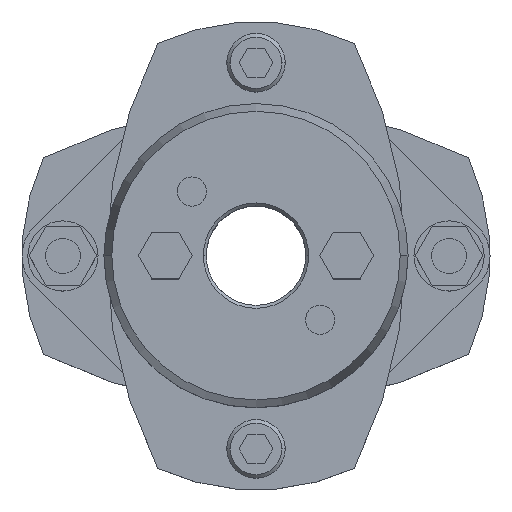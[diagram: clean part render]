
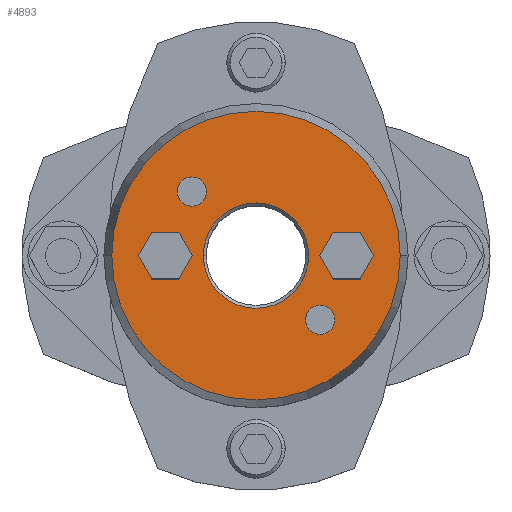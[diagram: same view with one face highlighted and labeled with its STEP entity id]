
A CAD part, top view. The second image highlights one B-rep face of the part: STEP entity #4893.
In plain terms, the highlighted planar face has unit normal (0, 0, 1).
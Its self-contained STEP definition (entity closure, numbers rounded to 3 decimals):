
#857=CARTESIAN_POINT('',(-9.,0.,35.875));
#858=VERTEX_POINT('',#857);
#874=CARTESIAN_POINT('',(9.,0.,35.875));
#875=VERTEX_POINT('',#874);
#882=CARTESIAN_POINT('',(0.,0.,35.875));
#883=DIRECTION('',(0.0,0.0,1.0));
#884=DIRECTION('',(-1.0,0.0,0.0));
#885=AXIS2_PLACEMENT_3D('',#882,#883,#884);
#886=CIRCLE('',#885,9.0);
#887=EDGE_CURVE('',#875,#858,#886,.T.);
#1045=CARTESIAN_POINT('',(24.66,0.,35.875));
#1046=VERTEX_POINT('',#1045);
#1053=CARTESIAN_POINT('',(-24.66,0.,35.875));
#1054=VERTEX_POINT('',#1053);
#1055=CARTESIAN_POINT('',(0.,0.,35.875));
#1056=DIRECTION('',(0.0,0.0,-1.0));
#1057=DIRECTION('',(1.0,0.0,0.0));
#1058=AXIS2_PLACEMENT_3D('',#1055,#1056,#1057);
#1059=CIRCLE('',#1058,24.66);
#1060=EDGE_CURVE('',#1046,#1054,#1059,.T.);
#1155=CARTESIAN_POINT('',(-13.46,10.96,35.875));
#1156=VERTEX_POINT('',#1155);
#1172=CARTESIAN_POINT('',(-8.46,10.96,35.875));
#1173=VERTEX_POINT('',#1172);
#1180=CARTESIAN_POINT('',(-10.96,10.96,35.875));
#1181=DIRECTION('',(0.0,0.0,-1.0));
#1182=DIRECTION('',(-1.0,0.0,0.0));
#1183=AXIS2_PLACEMENT_3D('',#1180,#1181,#1182);
#1184=CIRCLE('',#1183,2.5);
#1185=EDGE_CURVE('',#1156,#1173,#1184,.T.);
#1197=CARTESIAN_POINT('',(8.46,-10.96,35.875));
#1198=VERTEX_POINT('',#1197);
#1214=CARTESIAN_POINT('',(13.46,-10.96,35.875));
#1215=VERTEX_POINT('',#1214);
#1222=CARTESIAN_POINT('',(10.96,-10.96,35.875));
#1223=DIRECTION('',(0.0,0.0,-1.0));
#1224=DIRECTION('',(-1.0,0.0,0.0));
#1225=AXIS2_PLACEMENT_3D('',#1222,#1223,#1224);
#1226=CIRCLE('',#1225,2.5);
#1227=EDGE_CURVE('',#1198,#1215,#1226,.T.);
#4137=CARTESIAN_POINT('',(10.881,0.,35.875));
#4138=VERTEX_POINT('',#4137);
#4145=CARTESIAN_POINT('',(13.191,-4.,35.875));
#4146=VERTEX_POINT('',#4145);
#4147=CARTESIAN_POINT('',(13.191,-4.,35.875));
#4148=DIRECTION('',(-0.5,0.866,0.0));
#4149=VECTOR('',#4148,4.619);
#4150=LINE('',#4147,#4149);
#4151=EDGE_CURVE('',#4146,#4138,#4150,.T.);
#4175=CARTESIAN_POINT('',(13.191,4.,35.875));
#4176=VERTEX_POINT('',#4175);
#4183=CARTESIAN_POINT('',(10.881,0.,35.875));
#4184=DIRECTION('',(0.5,0.866,0.0));
#4185=VECTOR('',#4184,4.619);
#4186=LINE('',#4183,#4185);
#4187=EDGE_CURVE('',#4138,#4176,#4186,.T.);
#4206=CARTESIAN_POINT('',(17.809,4.,35.875));
#4207=VERTEX_POINT('',#4206);
#4214=CARTESIAN_POINT('',(13.191,4.,35.875));
#4215=DIRECTION('',(1.0,0.0,0.0));
#4216=VECTOR('',#4215,4.619);
#4217=LINE('',#4214,#4216);
#4218=EDGE_CURVE('',#4176,#4207,#4217,.T.);
#4237=CARTESIAN_POINT('',(20.119,0.,35.875));
#4238=VERTEX_POINT('',#4237);
#4245=CARTESIAN_POINT('',(17.809,4.,35.875));
#4246=DIRECTION('',(0.5,-0.866,0.0));
#4247=VECTOR('',#4246,4.619);
#4248=LINE('',#4245,#4247);
#4249=EDGE_CURVE('',#4207,#4238,#4248,.T.);
#4268=CARTESIAN_POINT('',(17.809,-4.,35.875));
#4269=VERTEX_POINT('',#4268);
#4276=CARTESIAN_POINT('',(20.119,0.,35.875));
#4277=DIRECTION('',(-0.5,-0.866,0.0));
#4278=VECTOR('',#4277,4.619);
#4279=LINE('',#4276,#4278);
#4280=EDGE_CURVE('',#4238,#4269,#4279,.T.);
#4298=CARTESIAN_POINT('',(17.809,-4.,35.875));
#4299=DIRECTION('',(-1.0,0.0,0.0));
#4300=VECTOR('',#4299,4.619);
#4301=LINE('',#4298,#4300);
#4302=EDGE_CURVE('',#4269,#4146,#4301,.T.);
#4337=CARTESIAN_POINT('',(-20.119,0.,35.875));
#4338=VERTEX_POINT('',#4337);
#4345=CARTESIAN_POINT('',(-17.809,-4.,35.875));
#4346=VERTEX_POINT('',#4345);
#4347=CARTESIAN_POINT('',(-17.809,-4.,35.875));
#4348=DIRECTION('',(-0.5,0.866,0.0));
#4349=VECTOR('',#4348,4.619);
#4350=LINE('',#4347,#4349);
#4351=EDGE_CURVE('',#4346,#4338,#4350,.T.);
#4375=CARTESIAN_POINT('',(-17.809,4.,35.875));
#4376=VERTEX_POINT('',#4375);
#4383=CARTESIAN_POINT('',(-20.119,0.,35.875));
#4384=DIRECTION('',(0.5,0.866,0.0));
#4385=VECTOR('',#4384,4.619);
#4386=LINE('',#4383,#4385);
#4387=EDGE_CURVE('',#4338,#4376,#4386,.T.);
#4406=CARTESIAN_POINT('',(-13.191,4.,35.875));
#4407=VERTEX_POINT('',#4406);
#4414=CARTESIAN_POINT('',(-17.809,4.,35.875));
#4415=DIRECTION('',(1.0,0.0,0.0));
#4416=VECTOR('',#4415,4.619);
#4417=LINE('',#4414,#4416);
#4418=EDGE_CURVE('',#4376,#4407,#4417,.T.);
#4437=CARTESIAN_POINT('',(-10.881,0.,35.875));
#4438=VERTEX_POINT('',#4437);
#4445=CARTESIAN_POINT('',(-13.191,4.,35.875));
#4446=DIRECTION('',(0.5,-0.866,0.0));
#4447=VECTOR('',#4446,4.619);
#4448=LINE('',#4445,#4447);
#4449=EDGE_CURVE('',#4407,#4438,#4448,.T.);
#4468=CARTESIAN_POINT('',(-13.191,-4.,35.875));
#4469=VERTEX_POINT('',#4468);
#4476=CARTESIAN_POINT('',(-10.881,0.,35.875));
#4477=DIRECTION('',(-0.5,-0.866,0.0));
#4478=VECTOR('',#4477,4.619);
#4479=LINE('',#4476,#4478);
#4480=EDGE_CURVE('',#4438,#4469,#4479,.T.);
#4498=CARTESIAN_POINT('',(-13.191,-4.,35.875));
#4499=DIRECTION('',(-1.0,0.0,0.0));
#4500=VECTOR('',#4499,4.619);
#4501=LINE('',#4498,#4500);
#4502=EDGE_CURVE('',#4469,#4346,#4501,.T.);
#4528=CARTESIAN_POINT('',(10.96,-10.96,35.875));
#4529=DIRECTION('',(0.0,0.0,-1.0));
#4530=DIRECTION('',(-1.0,0.0,0.0));
#4531=AXIS2_PLACEMENT_3D('',#4528,#4529,#4530);
#4532=CIRCLE('',#4531,2.5);
#4533=EDGE_CURVE('',#1215,#1198,#4532,.T.);
#4562=CARTESIAN_POINT('',(-10.96,10.96,35.875));
#4563=DIRECTION('',(0.0,0.0,-1.0));
#4564=DIRECTION('',(-1.0,0.0,0.0));
#4565=AXIS2_PLACEMENT_3D('',#4562,#4563,#4564);
#4566=CIRCLE('',#4565,2.5);
#4567=EDGE_CURVE('',#1173,#1156,#4566,.T.);
#4840=CARTESIAN_POINT('',(0.,0.,35.875));
#4841=DIRECTION('',(0.0,0.0,-1.0));
#4842=DIRECTION('',(1.0,0.0,0.0));
#4843=AXIS2_PLACEMENT_3D('',#4840,#4841,#4842);
#4844=CIRCLE('',#4843,24.66);
#4845=EDGE_CURVE('',#1054,#1046,#4844,.T.);
#4850=CARTESIAN_POINT('',(-2.364,0.,35.875));
#4851=DIRECTION('',(0.0,0.0,1.0));
#4852=DIRECTION('',(-1.0,0.0,0.0));
#4853=AXIS2_PLACEMENT_3D('',#4850,#4851,#4852);
#4854=PLANE('',#4853);
#4855=ORIENTED_EDGE('',*,*,#4845,.F.);
#4856=ORIENTED_EDGE('',*,*,#1060,.F.);
#4857=EDGE_LOOP('',(#4855,#4856));
#4858=FACE_OUTER_BOUND('',#4857,.T.);
#4859=ORIENTED_EDGE('',*,*,#4151,.T.);
#4860=ORIENTED_EDGE('',*,*,#4187,.T.);
#4861=ORIENTED_EDGE('',*,*,#4218,.T.);
#4862=ORIENTED_EDGE('',*,*,#4249,.T.);
#4863=ORIENTED_EDGE('',*,*,#4280,.T.);
#4864=ORIENTED_EDGE('',*,*,#4302,.T.);
#4865=EDGE_LOOP('',(#4859,#4860,#4861,#4862,#4863,#4864));
#4866=FACE_BOUND('',#4865,.T.);
#4867=ORIENTED_EDGE('',*,*,#4351,.T.);
#4868=ORIENTED_EDGE('',*,*,#4387,.T.);
#4869=ORIENTED_EDGE('',*,*,#4418,.T.);
#4870=ORIENTED_EDGE('',*,*,#4449,.T.);
#4871=ORIENTED_EDGE('',*,*,#4480,.T.);
#4872=ORIENTED_EDGE('',*,*,#4502,.T.);
#4873=EDGE_LOOP('',(#4867,#4868,#4869,#4870,#4871,#4872));
#4874=FACE_BOUND('',#4873,.T.);
#4875=ORIENTED_EDGE('',*,*,#1227,.T.);
#4876=ORIENTED_EDGE('',*,*,#4533,.T.);
#4877=EDGE_LOOP('',(#4875,#4876));
#4878=FACE_BOUND('',#4877,.T.);
#4879=ORIENTED_EDGE('',*,*,#1185,.T.);
#4880=ORIENTED_EDGE('',*,*,#4567,.T.);
#4881=EDGE_LOOP('',(#4879,#4880));
#4882=FACE_BOUND('',#4881,.T.);
#4883=ORIENTED_EDGE('',*,*,#887,.F.);
#4884=CARTESIAN_POINT('',(0.,0.,35.875));
#4885=DIRECTION('',(0.0,0.0,1.0));
#4886=DIRECTION('',(-1.0,0.0,0.0));
#4887=AXIS2_PLACEMENT_3D('',#4884,#4885,#4886);
#4888=CIRCLE('',#4887,9.0);
#4889=EDGE_CURVE('',#858,#875,#4888,.T.);
#4890=ORIENTED_EDGE('',*,*,#4889,.F.);
#4891=EDGE_LOOP('',(#4883,#4890));
#4892=FACE_BOUND('',#4891,.T.);
#4893=ADVANCED_FACE('',(#4858,#4866,#4874,#4878,#4882,#4892),#4854,.T.);
